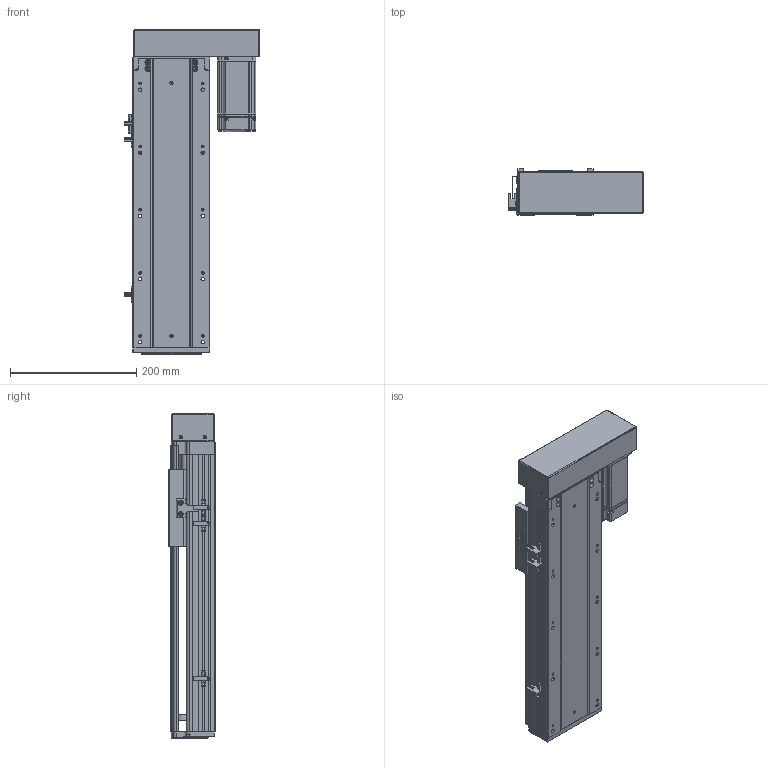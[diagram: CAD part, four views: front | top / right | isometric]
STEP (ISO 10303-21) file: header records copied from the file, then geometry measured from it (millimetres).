
FILE_DESCRIPTION (( 'STEP AP203' ), '1' );
FILE_NAME ('RY120-L1620-300-RK.SLDASM_250.step', '2021-02-22T02:29:36', ( '盈信电脑' ), ( '东莞市道滘镇水果街19号' ), 'SwSTEP 2.0', 'SolidWorks 2012', '' );
FILE_SCHEMA (( 'CONFIG_CONTROL_DESIGN' ));
Length unit declared in the file: millimetre
Products named in the file (14): RY120-L1620-300-RK.SLDASM_250; RY120蛌殏萇儂欶; 侂狟400W侜督萇儂; 15; RY120酘殏萇儂假蚾啣; RY120转拆电端丝杆支撑座; 滅袉蝶18-10; 滅袉蝶18-24; RY120外置感应片(140共用）; 覜茼ん672; RY120綴裔啣; RY120臏賑輸; RY120-300-RK蛌殏倰第奻裔啣_250; RY120-300-RK蛌殏倰第菁釱_250
Assembly tree (16 placements, depth 3):
  RY120-L1620-300-RK.SLDASM_250
    RY120-300-RK蛌殏倰第菁釱_250
    RY120-300-RK蛌殏倰第奻裔啣_250
    RY120臏賑輸
    RY120綴裔啣
    覜茼ん672  x3
    滅袉蝶18-10
    滅袉蝶18-24  x2
    RY120外置感应片(140共用）
    RY120转拆电端丝杆支撑座
    RY120酘殏萇儂假蚾啣
    侂狟400W侜督萇儂
      15
    RY120蛌殏萇儂欶
Bounding box: 214.4 x 73 x 514 mm (x, y, z)
Volume: 1946892.3 mm3; surface area: 664299.1 mm2
Topology: 16 solids, 16 shells, 2276 faces, 6231 edges, 4004 vertices
Faces by surface type: plane 1196, cylinder 800, cone 175, bspline 105
Entity records: 74542 total; most frequent: CARTESIAN_POINT 20565, ORIENTED_EDGE 11230, DIRECTION 10411, EDGE_CURVE 5615, VERTEX_POINT 3672, VECTOR 3581, LINE 3581, AXIS2_PLACEMENT_3D 3415
